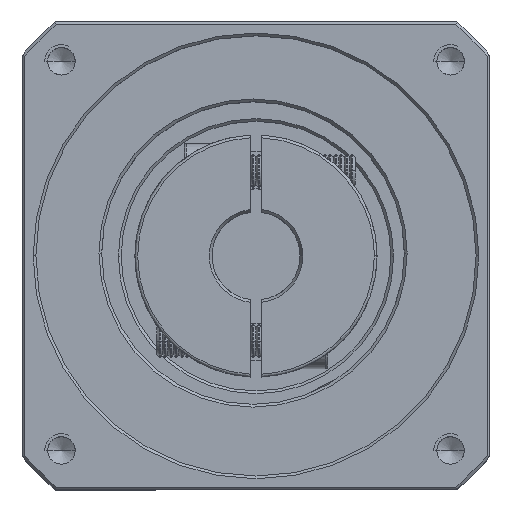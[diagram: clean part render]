
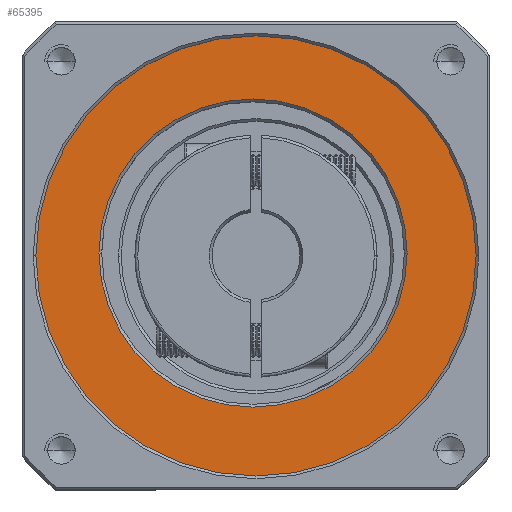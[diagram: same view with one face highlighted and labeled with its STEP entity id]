
A CAD part, top view. The second image highlights one B-rep face of the part: STEP entity #65395.
In plain terms, the highlighted planar face has unit normal (0, 0, 1).
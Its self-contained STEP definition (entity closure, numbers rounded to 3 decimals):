
#783 = DIRECTION ( 'NONE',  ( 0., 0., 1. ) ) ;
#2004 = DIRECTION ( 'NONE',  ( 1., 0., 0. ) ) ;
#4317 = DIRECTION ( 'NONE',  ( 0., 0., 1. ) ) ;
#8697 = CARTESIAN_POINT ( 'NONE',  ( -55.926, 18.511, 20.519 ) ) ;
#9649 = ORIENTED_EDGE ( 'NONE', *, *, #14327, .T. ) ;
#10127 = VERTEX_POINT ( 'NONE', #27809 ) ;
#13478 = EDGE_CURVE ( 'NONE', #27213, #10127, #96466, .T. ) ;
#14327 = EDGE_CURVE ( 'NONE', #46316, #104833, #127169, .T. ) ;
#16245 = EDGE_CURVE ( 'NONE', #10127, #27213, #103627, .T. ) ;
#16482 = AXIS2_PLACEMENT_3D ( 'NONE', #90822, #31950, #100662 ) ;
#16534 = EDGE_LOOP ( 'NONE', ( #9649, #118939 ) ) ;
#27213 = VERTEX_POINT ( 'NONE', #8697 ) ;
#27809 = CARTESIAN_POINT ( 'NONE',  ( -135.926, 18.511, 20.519 ) ) ;
#31792 = CIRCLE ( 'NONE', #126824, 28. ) ;
#31950 = DIRECTION ( 'NONE',  ( 0., 0., -1. ) ) ;
#32661 = DIRECTION ( 'NONE',  ( 0., 0., 1. ) ) ;
#36876 = EDGE_CURVE ( 'NONE', #104833, #46316, #31792, .T. ) ;
#42130 = PLANE ( 'NONE',  #64552 ) ;
#46129 = CARTESIAN_POINT ( 'NONE',  ( -124.468, 19.045, 20.519 ) ) ;
#46316 = VERTEX_POINT ( 'NONE', #111098 ) ;
#46709 = ORIENTED_EDGE ( 'NONE', *, *, #16245, .T. ) ;
#48441 = AXIS2_PLACEMENT_3D ( 'NONE', #63290, #4317, #73153 ) ;
#59684 = CARTESIAN_POINT ( 'NONE',  ( -95.926, 18.511, 20.519 ) ) ;
#60886 = DIRECTION ( 'NONE',  ( 0., 0., -1. ) ) ;
#63290 = CARTESIAN_POINT ( 'NONE',  ( -95.926, 18.511, 20.519 ) ) ;
#64552 = AXIS2_PLACEMENT_3D ( 'NONE', #91535, #32661, #101417 ) ;
#65395 = ADVANCED_FACE ( 'NONE', ( #120887, #68749 ), #42130, .T. ) ;
#68749 = FACE_BOUND ( 'NONE', #16534, .T. ) ;
#69575 = DIRECTION ( 'NONE',  ( 1., 0., 0. ) ) ;
#73101 = EDGE_LOOP ( 'NONE', ( #102934, #46709 ) ) ;
#73153 = DIRECTION ( 'NONE',  ( 1., 0., 0. ) ) ;
#90822 = CARTESIAN_POINT ( 'NONE',  ( -96.468, 19.045, 20.519 ) ) ;
#91535 = CARTESIAN_POINT ( 'NONE',  ( -95.926, 18.511, 20.519 ) ) ;
#96466 = CIRCLE ( 'NONE', #48441, 40. ) ;
#100662 = DIRECTION ( 'NONE',  ( 1., 0., 0. ) ) ;
#101417 = DIRECTION ( 'NONE',  ( 1., 0., 0. ) ) ;
#102934 = ORIENTED_EDGE ( 'NONE', *, *, #13478, .T. ) ;
#103627 = CIRCLE ( 'NONE', #108068, 40. ) ;
#104833 = VERTEX_POINT ( 'NONE', #46129 ) ;
#108068 = AXIS2_PLACEMENT_3D ( 'NONE', #59684, #783, #69575 ) ;
#111098 = CARTESIAN_POINT ( 'NONE',  ( -68.468, 19.045, 20.519 ) ) ;
#118939 = ORIENTED_EDGE ( 'NONE', *, *, #36876, .T. ) ;
#119675 = CARTESIAN_POINT ( 'NONE',  ( -96.468, 19.045, 20.519 ) ) ;
#120887 = FACE_OUTER_BOUND ( 'NONE', #73101, .T. ) ;
#126824 = AXIS2_PLACEMENT_3D ( 'NONE', #119675, #60886, #2004 ) ;
#127169 = CIRCLE ( 'NONE', #16482, 28. ) ;
